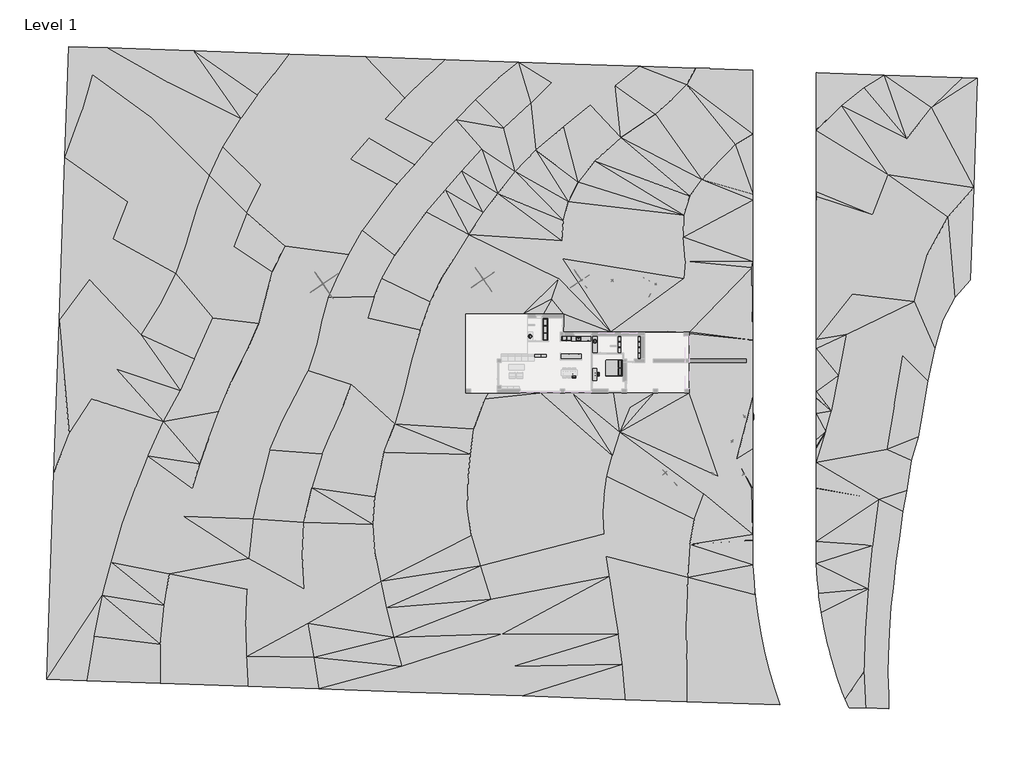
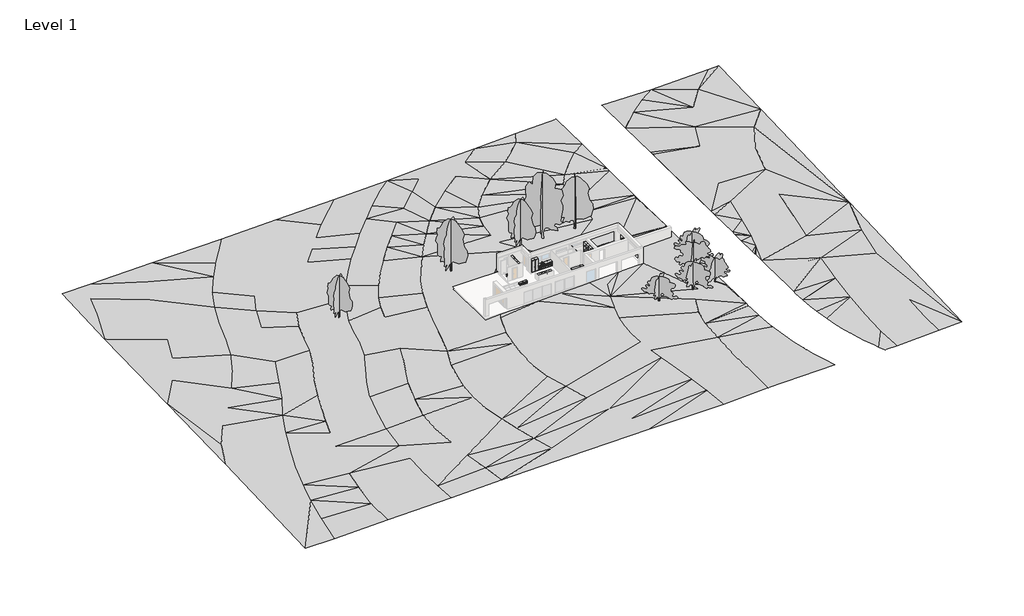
# One storey, part 2 of 2: 35 furniture elements, 10 geographic elements, 3 flow terminals, 1 proxy.
"""IFC4 building model written with IfcOpenShell, lengths in millimetres."""

from ifc_helpers import new_model, si_unit, origin, place, context, project, spatial, triangles, transform, mapped, element, save
from components import sink_kitchen_single_600_x_535mm_f0c6929d, sink_vanity_round_482_x_482mm_621b7b9b, furniture_56f83323, furniture_1500_x_500mm_231fc5f9, furniture_700_x_300_x_2200mm_207dd1db, furniture_750_x_300_x_450mm_957a72fb, base_cabinet_4_drawers_600_mm_7743cde6, base_cabinet_4_drawers_600_mm_75a3c887, bed_box_2000_x_2100mm_5f007bae, counter_top_counter_top_fbe04672, counter_top_w_sink_counter_top_w_sink_1a22a961, front_plain_front_plain_37046411, front_plain_front_plain_e6c80844, front_plain_front_plain_2_fe2e9d0c, plinth_164mm_a440ec44, plinth_164mm_10810e33, tall_cabinet_double_door_900_mm_12ca9f50, tall_cabinet_single_door_600_mm_6a825e10, vanity_counter_top_w_round_sink_hole_600mm_depth_ba51d22c, rpc_tree_deciduous_hawthorn_5_meters_61e68b76, rpc_tree_deciduous_hawthorn_5_5_meters_b1aece7a, rpc_tree_deciduous_hawthorn_6_meters_b5c31be1, rpc_tree_deciduous_red_ash_10_meters_1bd7eb3f, rpc_tree_deciduous_red_ash_12_5_meters_f1622f8d, rpc_tree_deciduous_red_ash_8_meters_67bd5bca, rpc_tree_deciduous_red_ash_9_meters_4b385689

model = new_model("IFC4")

# Units and contexts
model_context = context("Model", 3, world=origin())
ifc_project = project(units=[si_unit("LENGTHUNIT", "METRE", prefix="MILLI")], contexts=[model_context])

# Site, building, storey
site = spatial("IfcSite", under=ifc_project)
building = spatial("IfcBuilding", under=site)
storey = spatial("IfcBuildingStorey", under=building, Name="Level 1", Elevation=0.0)

# Proxy
placement = place(None, origin())
element("IfcBuildingElementProxy", 1, Name="Building Element Proxy", at=placement, inside=storey, context=model_context, shape_type="Tessellation", body=[
    triangles([(62675.4813354, 39834.7592285, 500.0000038), (52813.8925781, 40179.1335571, 0.0), (44199.9997559, 40479.9384521, -99.9114706), (44199.9997559, 40477.7757935, -99.8740728), (44199.9997559, 40470.1669556, -99.7612435), (44199.9997559, 33283.15448, 0.0), (44199.9997559, 33281.3429626, 0.0637354), (44199.9997559, 33162.8501953, 1.412361), (44199.9997559, 25459.997113, 92.5713027), (44199.9997559, 24843.6114807, 100.0000008), (44199.9997559, 24154.9302612, 107.5494491), (44199.9997559, 15721.3415497, 200.0000015), (44199.9997559, 15598.8536774, 201.3711024), (44199.9997559, 6787.8083542, 300.0000023), (44199.9997559, 5639.6784348, 351.4946789), (44199.9997559, 167.286119, 427.0918814), (44199.9997559, -580.2686145, 401.8743436), (44199.9997559, -678.7061016, 402.7253454), (44199.9997559, -815.0331728, 404.2993046), (44199.9997559, -2579.7006775, 446.6362189), (44199.9997559, -5884.6937119, 500.0000038), (44199.9997559, -6738.3166077, 500.0000038), (44199.9997559, -6960.7408218, 504.2089039), (44199.9997559, -8790.5395981, 538.8338616), (44199.9997559, -11980.0361938, 603.3105947), (44199.9997559, -12033.5247894, 603.7311722), (44199.9997559, -18725.3419098, 700.0708586), (44199.9997559, -18726.726709, 700.0782709), (44199.9997559, -18728.290567, 700.0847385), (44199.9997559, -18763.760495, 700.5671946), (44199.9997559, -19440.043634, 710.8359718), (44241.6948853, -21521.9537659, 742.51071), (44366.7058594, -23600.5245667, 774.2601528), (44518.5849609, -25112.4601868, 797.4461649), (44535.3234741, -25279.0965271, 800.2659782), (44536.1420288, -25287.203009, 800.3105976), (44545.3414673, -25378.7997437, 801.2867008), (44574.8373413, -25672.4213562, 805.0710629), (44865.7544678, -27734.3280579, 831.7553352), (45238.9875, -29782.9309204, 858.3768934), (45693.9457764, -31814.9487488, 884.8932255), (45842.1925415, -32371.5403564, 892.187039), (45995.034375, -32945.3681213, 900.9259678), (46009.898584, -33001.1809937, 901.3053051), (46229.8898071, -33827.1236023, 912.3891489), (46845.9684814, -35816.227771, 940.7171436), (47541.1865112, -37779.070752, 970.3251474), (47895.8578857, -38665.8887146, 984.470941), (48311.874353, -39706.1019653, 980.0273169), (48314.4369873, -39712.5062256, 980.0480278), (50489.2112183, -39788.4504272, 1000.0000076), (57791.5515381, -40043.4534668, 1500.0000114), (61788.2378174, -40183.0216919, 1800.0000137), (63078.8567139, -3224.5165512, 1500.0000114), (64097.259668, 25938.7399841, 1000.0000076), (64580.1976318, 39768.2470093, 600.0000046), (29032.1976746, 41009.6084473, -500.0000038), (21941.3956055, 41257.2258911, -1000.0000076), (13657.7942505, 41546.4966064, -1500.0000114), (6632.065535, 41791.8397705, -2000.0000153), (-2690.8654037, 42117.4012939, -2500.0000191), (-12716.4098511, 42467.5008545, -3000.0000229), (-22333.341449, 42803.3315186, -3500.0000267), (-34451.2413208, 43226.5010376, -4000.0000305), (-45250.163562, 43603.608252, -4500.0000343), (-50149.8691406, 43774.709436, -4649.9998901), (-50640.5368652, 29723.8461548, -4500.0000343), (-51357.5442627, 9191.3639694, -4000.0000305), (-52030.1078613, -10068.240097, -3500.0000267), (-52941.8289551, -36176.5592651, -3170.0001114), (-47875.0963623, -36353.4926514, -3000.0000229), (-38571.968866, -36678.3658447, -2500.0000191), (-27447.2316284, -37066.8491089, -2000.0000153), (-18591.4814758, -37376.1, -1500.0000114), (-7024.2532242, -37780.0358093, -1000.0000076), (7111.8414825, -38273.677771, -500.0000038), (20142.6147034, -38728.7244141, 0.0), (27859.4460022, -38998.2009888, 500.0000038), (39617.2887817, -39408.7945313, 979.9999929), (39620.4560303, -39408.9061523, 979.9999929), (39615.242395, -39393.1954834, 979.7900494), (39592.0252075, -39323.2369629, 978.824556), (38908.0390503, -37262.2581116, 947.4351929), (38277.0333801, -35090.2860352, 918.016785), (37917.315802, -33651.7901184, 900.9052568), (37900.7447205, -33585.5243958, 900.0000069), (37897.1263367, -33571.053186, 899.8178959), (37891.2336731, -33547.4871826, 899.5252539), (37728.3389648, -32896.0757813, 889.617065), (37262.7301758, -30682.7434387, 859.1798967), (36880.8720886, -28453.4330017, 831.7234331), (36583.3088562, -26211.3186951, 807.286698), (36531.7631653, -25666.0217468, 802.1085983), (36515.5618286, -25494.6182556, 800.0000061), (36509.2459351, -25427.7897766, 799.0163452), (36491.581897, -25240.9337402, 796.3089523), (36370.4613831, -23959.5793945, 775.587252), (36242.6296509, -21701.4195557, 741.8023956), (36199.9996948, -19440.043634, 710.6949921), (36199.9996948, -18606.7293823, 699.7334518), (36199.9996948, -18601.1797211, 699.7258215), (36199.9996948, -18596.641626, 699.7049652), (36199.9996948, -18590.1536499, 699.6456665), (36199.9996948, -17865.8920441, 688.9390526), (36199.9996948, -11959.4700073, 600.0000046), (36199.9996948, -7036.0792465, 500.0000038), (36199.9996948, -556.9180049, 400.0000031), (36199.9996948, 6699.2172501, 300.0000023), (36199.9996948, 15865.8920288, 200.0000015), (36199.9996948, 16593.2615845, 192.1385083), (36199.9996948, 24352.2461243, 108.5469173), (36199.9996948, 25139.7096863, 99.9103623), (36199.9996948, 25142.1909302, 99.9101262), (36199.9996948, 25144.3814941, 99.9011514), (36199.9996948, 25146.8185547, 99.8778698), (36199.9996948, 25152.6530823, 99.8128483), (36199.9996948, 25166.5359558, 99.6477875), (36199.9996948, 32703.2852234, 0.0), (36199.9996948, 32724.904834, -0.9608008), (36199.9996948, 40755.7123169, -100.6891393), (36199.9996948, 40759.3027954, -100.7970179), (12360.0002106, 9960.0001923, -423.8153735), (12360.0002106, 7679.999826, -386.8554565), (15285.8030182, 7679.999826, -301.7458623), (18274.7275543, 7679.999826, -214.9600804), (25461.2551758, 7679.999826, 0.0), (26497.6430786, 7679.999826, 27.7077973), (28199.9996338, 7679.999826, 73.9349766), (28199.9996338, 7507.9138184, 75.4836602), (28199.9996338, 5272.7839691, 104.8813253), (28199.9996338, 4319.9999748, 118.0120554), (35399.9996887, 4319.9999748, 311.3113395), (35399.9996887, 3839.999913, 317.9264517), (28199.9996338, 3839.999913, 124.6271494), (28199.9996338, 2736.0071251, 139.841764), (28199.9996338, 481.2594326, 173.2234928), (28199.9996338, 0.0, 182.6416316), (23694.83974, 0.0, 66.3748957), (21515.1169739, 0.0, 0.0), (18634.7334869, 0.0, -87.7288294), (17198.1328033, 0.0, -125.1444416), (13397.1217896, 0.0, -237.486249), (9421.774324, 0.0, -329.9934114), (2810.9458649, 0.0, -500.0000038), (885.1346352, 0.0, -579.7759847), (0.0, 0.0, -622.2285896), (0.0, 461.6037283, -627.3847429), (0.0, 3115.9016693, -690.3053209), (0.0, 4821.8949211, -712.2826132), (0.0, 6894.0576828, -743.3206169), (0.0, 9063.5816528, -799.5297586), (0.0, 9960.0001923, -814.352037), (1774.630632, 9960.0001923, -751.0566999), (5988.3961029, 9960.0001923, -622.0950222), (7160.4402603, 9960.0001923, -584.8428266), (9741.0100708, 9960.0001923, -500.0000038), (17785.0597687, -10539.9996735, 0.0), (17437.3914551, -12871.6573517, 0.0), (1020.5792747, -4531.0638359, -500.0000038), (518.5041069, -7734.6319565, -500.0000038), (269.882055, -10539.9996735, -500.0000038), (159.9114783, -14508.993457, -500.0000038), (10815.8165588, 11888.7138611, -500.0000038), (11691.8677368, 14459.9999359, -500.0000038), (12137.434726, 16959.4729523, -500.0000038), (655.4314322, -17979.9257812, -500.0000038), (-10346.5091583, -7499.8718674, -1000.0000076), (-11019.1739136, -10539.9996735, -1000.0000076), (-11497.3703064, -13133.3913757, -1000.0000076), (-11757.5323334, -16613.3196625, -1000.0000076), (-11482.3456421, -20106.2308777, -1000.0000076), (-3118.8869522, 14459.9999359, -1000.0000076), (-1502.4372173, 17074.1857178, -1000.0000076), (27492.182373, 14459.9999359, 0.0), (27666.9228699, 16682.0247711, 0.0), (34184.4878357, -8324.7819809, 500.0000038), (31872.168512, -10539.9996735, 500.0000038), (30046.977594, -12763.5383698, 500.0000038), (-8954.5493546, 17345.9063416, -1500.0000114), (-11578.9874176, 12182.533136, -1500.0000114), (-13183.5883118, 6460.6073959, -1500.0000114), (12087.2947632, 19234.2759613, -500.0000038), (-10616.9240479, 14459.9999359, -1500.0000114), (-16332.8019012, 14459.9999359, -2000.0000153), (-18196.6997589, 9135.8714264, -2000.0000153), (-19897.1575928, 2861.2186684, -2000.0000153), (-23189.1380493, -3524.1581451, -2000.0000153), (-24769.0416138, -7218.9215744, -2000.0000153), (-25864.4026611, -11505.3895844, -2000.0000153), (-26865.7415405, -15916.5017303, -2000.0000153), (-20467.3902283, -16330.3799561, -1500.0000114), (-19467.1082611, -11972.8180298, -1500.0000114), (-18138.8870087, -7688.4045456, -1500.0000114), (-15501.0294159, -1549.4827469, -1500.0000114), (-13779.6728577, 3681.9333984, -1500.0000114), (-12421.0069519, 9460.4144073, -1500.0000114), (-22866.0182373, 18570.6315857, -2500.0000191), (-24428.3949646, 15268.9656738, -2500.0000191), (-26157.3452454, 8807.4653091, -2500.0000191), (-27607.0474548, 5450.8405426, -2500.0000191), (-31175.1319885, -2313.5807293, -2500.0000191), (-32441.6337524, -5760.616983, -2500.0000191), (-33596.7330139, -8984.5201996, -2500.0000191), (-34532.6851868, -12038.5221588, -2500.0000191), (-35635.348114, -15592.0994385, -2500.0000191), (-20960.820575, 21543.5291931, -2500.0000191), (-19070.9475586, 24142.4705566, -2500.0000191), (-16802.0151215, 26729.9451782, -2500.0000191), (-14788.6938263, 17511.7241272, -2000.0000153), (-13095.9297089, 20523.1635681, -2000.0000153), (-10897.5615692, 23500.2097595, -2000.0000153), (-8647.2402054, 26403.1488464, -2000.0000153), (-6975.3120255, 20279.1435791, -1500.0000114), (-4994.2248093, 22853.0167053, -1500.0000114), (-2614.1087517, 25655.3270508, -1500.0000114), (361.8462636, 20042.7626587, -1000.0000076), (2201.2583702, 22782.5907715, -1000.0000076), (4025.0816391, 25202.8011841, -1000.0000076), (6258.6296082, 27941.9711975, -1000.0000076), (12318.7748199, 21808.2130371, -500.0000038), (12903.4391327, 24186.8608704, -500.0000038), (16274.1833862, 29288.0122925, -500.0000038), (27455.9171448, 19670.448175, 0.0), (28270.9464661, 24906.2797485, 0.0), (32015.9667114, 29437.5752563, 0.0), (-25870.6953003, 26309.0429626, -3000.0000229), (-27656.3095642, 22737.8144348, -3000.0000229), (-29306.3460571, 18472.584082, -3000.0000229), (-30599.2462097, 13692.0212311, -3000.0000229), (-31952.9286987, 9466.1942871, -3000.0000229), (-34271.8894775, 4278.4179199, -3000.0000229), (-32380.5584106, 27476.360083, -3500.0000267), (-33900.1191467, 23473.5625488, -3500.0000267), (-35196.7097717, 19206.453241, -3500.0000267), (-38595.8976379, 11205.8508911, -3500.0000267), (-41440.5449341, 29594.444751, -4000.0000305), (-30705.2002075, 31085.8002319, -3500.0000267), (-23672.9759583, 29571.7507874, -3000.0000229), (-36036.2027161, 329.8430935, -3000.0000229), (-36500.1836975, -19119.0876434, -2500.0000191), (-29576.7830383, 1556.081472, -2500.0000191), (-25350.2038147, 11954.3168335, -2500.0000191), (-14566.5132019, 29578.5852539, -2500.0000191), (-21555.6098511, -388.1904768, -2000.0000153), (-27410.2687683, -20897.2756165, -2000.0000153), (-20671.5405579, -20486.1983826, -1500.0000114), (-14476.0989532, 1084.1536646, -1500.0000114), (-16860.3557465, -4734.5223473, -1500.0000114), (-521.909931, 28019.824585, -1500.0000114), (-6463.5287292, 28827.9566528, -2000.0000153), (14176.1858643, 26665.7956055, -500.0000038), (1795.4909866, -21816.7241455, -500.0000038), (17261.4998657, -15127.9126556, 0.0), (17663.1962769, -20610.3977783, 0.0), (18068.4250305, -23150.8078308, 0.0), (17389.6315796, -17770.4083374, 0.0), (28246.7107361, -19100.8410828, 500.0000038), (28017.940979, -23279.041864, 500.0000038), (28808.7787537, -15989.1379944, 500.0000038), (-17393.6545898, 12080.7753937, -2000.0000153), (-18805.5974762, 6207.9710724, -2000.0000153), (2368.3175045, -773.4899237, -500.0000038), (44247.1782715, -6739.9636002, 500.0000038), (44216.2592285, 6787.2403656, 300.0000023), (44213.668689, 15720.8636719, 200.0000015), (44280.4925171, 24840.8000244, 100.0000008), (45405.5308228, -4846.0821075, 500.0000038), (46133.030603, -2276.4914234, 500.0000038), (47035.2499512, 2229.5832401, 500.0000038), (36112.1980774, -11959.089798, 600.0000046), (36116.053656, 15873.7834076, 200.0000015), (26720.9154968, 11432.5254272, 0.0), (19446.9873962, -4904.8953781, 0.0), (20699.6690735, -1810.0515804, 0.0), (18499.5859222, -7915.4982422, 0.0), (25510.3545044, 7779.8018738, 0.0), (-4490.6825798, 11500.9665985, -1000.0000076), (-5769.6844528, 7932.4006989, -1000.0000076), (-7859.2063293, 74.3139641, -1000.0000076), (-9011.8882965, -3894.2512527, -1000.0000076), (-6927.6056351, 4074.3969429, -1000.0000076), (-10028.7018127, -27163.437323, -1000.0000076), (-9105.1994614, -30846.8101685, -1000.0000076), (-10781.3861023, -23778.0555908, -1000.0000076), (-8099.0672699, -34512.821283, -1000.0000076), (8826.8693573, 30656.270636, -1000.0000076), (12337.2295074, 33655.4015259, -1000.0000076), (15699.4405609, 36343.2537415, -1000.0000076), (18859.1221161, 38796.1598328, -1000.0000076), (3109.4622368, -26048.5007263, -500.0000038), (4583.7254471, -30410.8367798, -500.0000038), (5956.0300552, -34527.5947998, -500.0000038), (19527.9475708, 32270.4674561, -500.0000038), (23908.9522522, 35235.1353333, -500.0000038), (26075.9478882, 37149.0882751, -500.0000038), (27907.8895569, 38964.2053894, -500.0000038), (-20384.6092346, -24769.1532349, -1500.0000114), (-19959.4654175, -29109.2697144, -1500.0000114), (-19219.3373383, -33364.270459, -1500.0000114), (2020.3673767, 30782.7024536, -1500.0000114), (4766.3506371, 33450.1768433, -1500.0000114), (8173.0889145, 36647.2537903, -1500.0000114), (10804.8172302, 39208.1835205, -1500.0000114), (-4107.6114853, 31581.3537048, -2000.0000153), (-1261.2480148, 34516.5350098, -2000.0000153), (1208.2063396, 37064.6352905, -2000.0000153), (4064.231575, 39763.5310181, -2000.0000153), (-27633.5156067, -24771.0019592, -2000.0000153), (-27781.8925964, -29019.9519104, -2000.0000153), (-27646.7171265, -33283.5358521, -2000.0000153), (-12204.7329437, 32216.9567688, -2500.0000191), (-10167.2712616, 34569.6294434, -2500.0000191), (-7717.243483, 37275.1782532, -2500.0000191), (-4949.7379898, 39936.6785889, -2500.0000191), (-37482.3586304, -22863.6951233, -2500.0000191), (-38055.6282898, -26807.2567383, -2500.0000191), (-38594.4558655, -31719.6661926, -2500.0000191), (-21449.9186279, 32503.4648621, -3000.0000229), (-19081.6317902, 35291.045874, -3000.0000229), (-16786.5602509, 38063.2696838, -3000.0000229), (-14596.5171844, 40422.0303589, -3000.0000229), (-38200.0752869, -3613.1547478, -3000.0000229), (-40141.5823608, -7934.4656891, -3000.0000229), (-41717.769873, -11958.8816711, -3000.0000229), (-43404.387854, -16551.3990234, -3000.0000229), (-44790.4009277, -21373.4744568, -3000.0000229), (-45881.0552856, -25549.7079163, -3000.0000229), (-46933.3957031, -30709.9743347, -3000.0000229), (-28417.2328857, 34688.1780212, -3500.0000267), (-26334.2344482, 37631.0774597, -3500.0000267), (-24204.1086548, 40355.3228027, -3500.0000267), (-36640.9704529, 15097.3121979, -3500.0000267), (-41001.8089233, 7310.767131, -3500.0000267), (-44149.0028687, 3059.9678741, -3500.0000267), (-47258.7990967, -779.7315485, -3500.0000267), (-50065.0836182, -5132.0018646, -3500.0000267), (-47531.4103638, 14353.0041412, -4000.0000305), (-44521.8219727, 19438.3611786, -4000.0000305), (-42694.2544556, 24127.534259, -4000.0000305), (-39700.2093018, 34798.3364136, -4000.0000305), (-37494.0416382, 39199.7282227, -4000.0000305), (-47157.1913452, 40199.225354, -4500.0000343), (-48452.8145874, 35728.7889221, -4500.0000343), (18631.0767334, -26639.6832458, 0.0), (19241.3476227, -30505.6798279, 0.0), (19747.1527954, -34271.9127319, 0.0), (33980.4398254, 31367.4086243, 0.0), (36502.3393799, -25495.4275085, 800.0000061), (37897.8588501, -33585.8987915, 900.0000069), (27795.621991, -28795.5051453, 500.0000038), (27867.5013245, -33694.7781921, 500.0000038), (48005.1395874, 7402.9923157, 500.0000038), (49818.2428711, 17722.8740295, 500.0000038), (48751.1359131, 12488.8132782, 500.0000038), (51292.6970581, 22563.8459839, 500.0000038), (55626.8743652, 32158.5556824, 500.0000038), (58768.8918823, 36043.2394958, 500.0000038), (53245.1918335, 27565.1686157, 500.0000038), (50262.2855347, -35164.0885071, 1000.0000076), (50421.6944092, -30034.5434692, 1000.0000076), (51347.6518433, -19242.60336, 1000.0000076), (50798.9039429, -24737.6109741, 1000.0000076), (52091.7366577, -13433.0486664, 1000.0000076), (54067.1556152, -1581.0279144, 1000.0000076), (55130.4814087, 4657.9639389, 1000.0000076), (53103.7539551, -7149.7856781, 1000.0000076), (56609.4143921, 11566.1905243, 1000.0000076), (58229.7666504, 17469.3209015, 1000.0000076), (60826.1151489, 22217.5275879, 1000.0000076), (57727.3973145, -35608.5683533, 1500.0000114), (57915.4323486, -30457.531604, 1500.0000114), (58615.3198608, -24434.56203, 1500.0000114), (59755.3293457, -17269.5970459, 1500.0000114), (60923.0394653, -10627.3920135, 1500.0000114), (47389.1957886, 36276.5485107, 0.0), (50253.3372437, 38551.6677795, 0.0), (27478.9575989, 22445.5276245, 0.0), (29784.2796753, 26945.6506165, 0.0)], [[70, 71, 328], [328, 72, 317], [72, 328, 71], [316, 317, 309], [328, 317, 327], [70, 328, 327], [326, 240, 325], [316, 326, 327], [69, 327, 326], [70, 327, 69], [315, 245, 240], [316, 308, 315], [315, 240, 326], [316, 315, 326], [327, 317, 316], [325, 240, 205], [310, 317, 72], [69, 326, 325], [297, 308, 309], [308, 316, 309], [298, 309, 310], [245, 315, 308], [299, 298, 310], [299, 73, 74], [171, 246, 297], [299, 310, 73], [317, 310, 309], [297, 309, 298], [205, 245, 190], [205, 240, 245], [190, 245, 246], [205, 190, 204], [192, 191, 170], [297, 246, 245], [191, 246, 170], [246, 191, 190], [245, 308, 297], [190, 191, 189], [298, 284, 297], [310, 72, 73], [325, 205, 324], [69, 324, 336], [324, 69, 325], [336, 324, 323], [69, 336, 68], [323, 204, 203], [204, 323, 324], [203, 204, 189], [336, 323, 335], [324, 205, 204], [322, 323, 203], [68, 335, 334], [334, 335, 322], [333, 334, 239], [68, 334, 333], [239, 231, 333], [201, 239, 322], [241, 231, 239], [239, 334, 322], [335, 323, 322], [235, 333, 231], [202, 322, 203], [336, 335, 68], [201, 202, 188], [189, 202, 203], [188, 202, 189], [202, 201, 322], [187, 188, 193], [192, 188, 189], [244, 187, 248], [188, 187, 201], [204, 190, 189], [201, 187, 241], [231, 200, 230], [200, 241, 244], [199, 200, 186], [200, 231, 241], [186, 261, 199], [194, 186, 244], [195, 261, 186], [186, 200, 244], [241, 187, 244], [199, 261, 185], [193, 188, 192], [201, 241, 239], [191, 192, 189], [199, 230, 200], [283, 298, 299], [170, 246, 171], [297, 284, 171], [171, 284, 166], [284, 298, 282], [282, 298, 283], [166, 170, 171], [285, 283, 299], [282, 252, 284], [248, 193, 167], [192, 170, 169], [192, 169, 168], [194, 244, 248], [170, 162, 169], [169, 162, 168], [168, 167, 193], [168, 193, 192], [168, 161, 167], [194, 248, 167], [282, 283, 290], [248, 187, 193], [283, 291, 290], [75, 285, 74], [291, 285, 75], [290, 252, 282], [75, 292, 291], [292, 75, 76], [345, 291, 292], [255, 290, 291], [254, 252, 290], [160, 161, 157], [162, 158, 161], [160, 167, 161], [161, 168, 162], [253, 166, 256], [166, 284, 252], [252, 256, 166], [166, 253, 162], [170, 166, 162], [143, 160, 157], [292, 76, 346], [285, 291, 283], [280, 167, 160], [247, 195, 186], [247, 194, 280], [195, 247, 279], [195, 181, 261], [279, 281, 195], [147, 281, 279], [149, 281, 148], [279, 247, 280], [194, 167, 280], [195, 281, 181], [196, 185, 181], [185, 261, 181], [181, 281, 278], [278, 196, 181], [150, 151, 278], [149, 150, 278], [281, 149, 278], [277, 278, 151], [279, 280, 146], [186, 194, 247], [146, 159, 145], [159, 146, 280], [145, 159, 262], [262, 159, 143], [143, 275, 142], [145, 262, 144], [142, 273, 141], [143, 159, 160], [148, 281, 147], [144, 262, 143], [124, 125, 122], [147, 279, 146], [280, 160, 159], [122, 123, 124], [158, 162, 253], [74, 285, 299], [199, 185, 242], [67, 68, 337], [68, 333, 337], [332, 235, 230], [337, 333, 235], [230, 199, 229], [337, 235, 338], [230, 235, 231], [229, 332, 230], [339, 338, 234], [332, 338, 235], [234, 338, 332], [337, 338, 67], [234, 228, 233], [234, 332, 229], [233, 228, 227], [234, 233, 339], [229, 228, 234], [236, 339, 233], [229, 198, 228], [339, 67, 338], [242, 260, 198], [242, 185, 260], [198, 260, 184], [197, 228, 198], [209, 184, 183], [260, 180, 184], [210, 209, 179], [198, 184, 197], [199, 242, 229], [197, 184, 209], [226, 227, 206], [227, 228, 197], [206, 227, 197], [233, 227, 232], [209, 207, 206], [206, 197, 209], [207, 210, 208], [206, 207, 226], [210, 207, 209], [226, 207, 238], [211, 208, 210], [198, 229, 242], [260, 185, 196], [226, 232, 227], [343, 67, 236], [67, 339, 236], [340, 236, 232], [343, 236, 340], [237, 238, 329], [237, 232, 226], [340, 237, 341], [232, 237, 340], [233, 232, 236], [341, 237, 329], [66, 343, 342], [343, 66, 67], [343, 340, 342], [66, 342, 65], [65, 341, 64], [341, 65, 342], [64, 341, 329], [340, 341, 342], [329, 330, 64], [318, 243, 319], [208, 318, 238], [318, 319, 330], [318, 330, 329], [208, 211, 243], [311, 243, 212], [243, 311, 319], [208, 243, 318], [226, 238, 237], [319, 311, 320], [331, 63, 64], [330, 319, 331], [63, 331, 320], [331, 64, 330], [321, 62, 63], [312, 321, 320], [313, 62, 321], [321, 63, 320], [319, 320, 331], [312, 320, 311], [318, 329, 238], [207, 208, 238], [260, 196, 180], [180, 277, 183], [196, 278, 180], [179, 183, 277], [179, 209, 183], [173, 172, 152], [152, 172, 277], [277, 151, 152], [173, 152, 153], [277, 180, 278], [179, 277, 172], [210, 213, 211], [210, 179, 213], [179, 172, 213], [211, 213, 214], [214, 173, 216], [173, 214, 213], [154, 216, 173], [215, 214, 216], [172, 173, 213], [212, 211, 214], [173, 153, 154], [183, 184, 180], [164, 154, 155], [163, 155, 156], [163, 122, 164], [122, 163, 156], [164, 122, 125], [163, 164, 155], [165, 216, 164], [217, 182, 218], [217, 216, 182], [218, 182, 220], [215, 216, 217], [377, 251, 221], [220, 182, 223], [218, 220, 219], [377, 221, 220], [165, 182, 216], [219, 220, 221], [164, 125, 165], [164, 216, 154], [218, 249, 217], [311, 250, 312], [250, 212, 215], [304, 250, 249], [312, 250, 304], [218, 300, 249], [249, 215, 217], [249, 300, 304], [215, 249, 250], [212, 214, 215], [304, 300, 305], [313, 305, 314], [313, 312, 304], [314, 61, 62], [312, 313, 321], [314, 306, 61], [306, 314, 305], [301, 306, 305], [61, 306, 307], [304, 305, 313], [314, 62, 313], [305, 300, 301], [311, 212, 250], [301, 219, 286], [219, 301, 300], [219, 221, 286], [302, 301, 286], [287, 251, 222], [251, 287, 286], [377, 222, 251], [287, 222, 288], [219, 300, 218], [302, 286, 287], [307, 302, 60], [302, 307, 301], [60, 302, 303], [307, 60, 61], [303, 288, 59], [303, 302, 287], [59, 288, 289], [303, 59, 60], [287, 288, 303], [222, 293, 288], [301, 307, 306], [251, 286, 221], [182, 165, 223], [212, 243, 211], [345, 346, 351], [345, 292, 346], [77, 78, 351], [90, 350, 351], [77, 351, 346], [344, 291, 345], [345, 351, 350], [350, 258, 344], [350, 344, 345], [93, 348, 92], [348, 258, 350], [348, 94, 95], [94, 348, 93], [92, 348, 350], [95, 96, 348], [351, 78, 84], [344, 255, 291], [349, 85, 86], [349, 351, 85], [349, 86, 87], [83, 84, 78], [82, 83, 78], [351, 84, 85], [91, 92, 350], [90, 91, 350], [349, 88, 89], [88, 349, 87], [90, 351, 89], [349, 89, 351], [78, 79, 82], [257, 256, 254], [254, 256, 252], [254, 290, 255], [258, 254, 255], [178, 259, 104], [259, 257, 104], [257, 259, 256], [258, 257, 254], [344, 258, 255], [259, 158, 253], [157, 178, 275], [157, 158, 259], [273, 142, 275], [143, 157, 275], [178, 270, 177], [176, 177, 270], [273, 178, 177], [275, 178, 273], [259, 178, 157], [176, 137, 177], [257, 258, 98], [259, 253, 256], [102, 257, 101], [101, 257, 100], [97, 98, 258], [96, 97, 258], [99, 257, 98], [105, 106, 176], [105, 270, 104], [105, 176, 270], [104, 270, 178], [104, 257, 103], [102, 103, 257], [100, 257, 99], [348, 96, 258], [107, 176, 106], [346, 76, 77], [81, 79, 80], [79, 81, 82], [360, 43, 44], [38, 39, 362], [40, 360, 39], [42, 360, 41], [40, 41, 360], [42, 43, 360], [44, 45, 359], [49, 50, 51], [48, 49, 51], [370, 51, 52], [51, 359, 48], [370, 52, 53], [46, 47, 359], [47, 48, 359], [359, 360, 44], [359, 371, 360], [371, 359, 370], [371, 370, 53], [362, 39, 360], [51, 370, 359], [359, 45, 46], [53, 372, 371], [362, 360, 371], [361, 28, 29], [361, 27, 28], [361, 30, 31], [29, 30, 361], [26, 27, 363], [263, 22, 23], [23, 267, 263], [363, 24, 25], [26, 363, 25], [267, 23, 24], [22, 263, 21], [32, 361, 31], [35, 36, 362], [34, 35, 362], [38, 362, 37], [362, 371, 372], [362, 372, 361], [37, 362, 36], [34, 362, 33], [361, 363, 27], [362, 361, 32], [363, 361, 373], [363, 366, 24], [363, 374, 366], [374, 363, 373], [373, 372, 53], [366, 374, 54], [372, 373, 361], [33, 362, 32], [53, 374, 373], [366, 267, 24], [53, 54, 374], [140, 273, 274], [140, 141, 273], [274, 138, 139], [138, 274, 273], [274, 139, 140], [273, 137, 138], [125, 126, 276], [276, 126, 127], [125, 276, 272], [174, 272, 271], [128, 272, 127], [272, 174, 125], [127, 272, 276], [174, 175, 165], [133, 135, 136], [107, 136, 137], [135, 133, 134], [133, 136, 107], [133, 107, 108], [273, 177, 137], [130, 132, 129], [132, 130, 131], [129, 108, 128], [108, 129, 132], [132, 133, 108], [271, 272, 128], [107, 137, 176], [271, 128, 108], [377, 224, 222], [223, 377, 220], [111, 224, 377], [222, 224, 293], [111, 378, 224], [110, 223, 175], [224, 378, 293], [223, 111, 377], [175, 223, 165], [293, 378, 294], [289, 294, 58], [294, 289, 293], [58, 294, 295], [289, 58, 59], [296, 57, 58], [347, 296, 295], [296, 120, 57], [296, 58, 295], [295, 294, 225], [378, 225, 294], [289, 288, 293], [271, 109, 110], [109, 271, 108], [110, 111, 223], [112, 113, 378], [112, 378, 111], [113, 114, 378], [347, 225, 117], [378, 114, 115], [378, 115, 116], [225, 347, 295], [117, 225, 378], [378, 116, 117], [347, 117, 118], [110, 175, 271], [175, 174, 271], [119, 296, 347], [165, 125, 174], [16, 269, 15], [16, 17, 268], [18, 19, 268], [17, 18, 268], [20, 268, 19], [14, 264, 13], [264, 14, 15], [13, 265, 12], [354, 265, 13], [354, 13, 264], [11, 12, 265], [264, 15, 352], [20, 21, 267], [268, 269, 16], [267, 366, 268], [269, 268, 364], [352, 15, 269], [364, 54, 365], [267, 21, 263], [365, 54, 367], [364, 365, 269], [268, 366, 364], [269, 365, 352], [354, 367, 353], [367, 354, 352], [354, 353, 265], [354, 264, 352], [54, 368, 367], [368, 54, 369], [353, 368, 355], [367, 368, 353], [352, 365, 367], [11, 265, 353], [54, 55, 369], [20, 267, 268], [366, 54, 364], [369, 355, 368], [120, 296, 119], [10, 266, 9], [8, 9, 358], [266, 10, 11], [121, 57, 120], [5, 6, 375], [4, 5, 376], [7, 375, 6], [8, 375, 7], [119, 347, 118], [355, 358, 9], [355, 266, 11], [355, 369, 358], [8, 358, 375], [356, 55, 357], [55, 356, 358], [357, 55, 56], [375, 358, 356], [369, 55, 358], [2, 356, 357], [4, 376, 3], [5, 375, 376], [375, 356, 376], [3, 376, 2], [356, 2, 376], [1, 2, 357], [357, 56, 1], [266, 355, 9], [11, 353, 355], [161, 158, 157]], closed=False),
])

# Flow terminals
sink_kitchen_single_600_x_535mm_shape = sink_kitchen_single_600_x_535mm_f0c6929d(model_context)
element("IfcFlowTerminal", 2, ObjectType="Sink Kitchen-Single : 600 x 535mm", at=placement, inside=storey, context=model_context, shape_type="MappedRepresentation", body=[
    mapped(sink_kitchen_single_600_x_535mm_shape, transform((14204.3107594, 6884.4545989, 0.0), x_axis=(1.0, 0.0, 0.0), y_axis=(0.0, 1.0, 0.0), z_axis=(0.0, 0.0, 1.0))),
])
sink_vanity_round_482_x_482mm_shape = sink_vanity_round_482_x_482mm_621b7b9b(model_context)
element("IfcFlowTerminal", 3, ObjectType="Sink Vanity - Round : 482 x 482mm", at=placement, inside=storey, context=model_context, shape_type="MappedRepresentation", body=[
    mapped(sink_vanity_round_482_x_482mm_shape, transform((16358.3901141, 6444.5531607, 0.0), x_axis=(0.0, 1.0, 0.0), y_axis=(-1.0, 0.0, 0.0), z_axis=(0.0, 0.0, 1.0))),
])
element("IfcFlowTerminal", 4, ObjectType="Sink Vanity - Round : 482 x 482mm", at=placement, inside=storey, context=model_context, shape_type="MappedRepresentation", body=[
    mapped(sink_vanity_round_482_x_482mm_shape, transform((8199.0351087, 7049.1198202, 0.0), x_axis=(0.0, 1.0000000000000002, 0.0), y_axis=(-1.0000000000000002, 0.0, 0.0), z_axis=(0.0, 0.0, 1.0))),
])

# Furniture
furniture_shape = furniture_56f83323(model_context)
element("IfcFurniture", 5, ObjectType="Chair - Allround : Chair - allround", at=placement, inside=storey, context=model_context, shape_type="MappedRepresentation", body=[
    mapped(furniture_shape, transform((13640.0, 2190.0, 0.0), x_axis=(-1.0, 0.0, 0.0), y_axis=(0.0, -1.0, 0.0), z_axis=(0.0, 0.0, 1.0))),
])
element("IfcFurniture", 6, ObjectType="Chair - Allround : Chair - allround", at=placement, inside=storey, context=model_context, shape_type="MappedRepresentation", body=[
    mapped(furniture_shape, transform((16525.0, 2370.0, 0.0), x_axis=(0.0, -1.0000000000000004, 0.0), y_axis=(1.0000000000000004, 0.0, 0.0), z_axis=(0.0, 0.0, 1.0))),
])
furniture_1500_x_500mm_shape = furniture_1500_x_500mm_231fc5f9(model_context)
element("IfcFurniture", 7, ObjectType="Table - Allround : 1500 x 500mm", at=placement, inside=storey, context=model_context, shape_type="MappedRepresentation", body=[
    mapped(furniture_1500_x_500mm_shape, transform((16275.0, 2320.0, 0.0), x_axis=(0.0, 1.0000000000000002, 0.0), y_axis=(-1.0000000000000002, 0.0, 0.0), z_axis=(0.0, 0.0, 1.0))),
])
furniture_700_x_300_x_2200mm_shape = furniture_700_x_300_x_2200mm_207dd1db(model_context)
element("IfcFurniture", 8, ObjectType="Shelving (Floor) - Allround : 700 x 300 x 2200mm", at=placement, inside=storey, context=model_context, shape_type="MappedRepresentation", body=[
    mapped(furniture_700_x_300_x_2200mm_shape, transform((19085.2, 6810.0, 0.0), x_axis=(0.0, 1.0000000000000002, 0.0), y_axis=(-1.0000000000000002, 0.0, 0.0), z_axis=(0.0, 0.0, 1.0))),
])
element("IfcFurniture", 9, ObjectType="Shelving (Floor) - Allround : 700 x 300 x 2200mm", at=placement, inside=storey, context=model_context, shape_type="MappedRepresentation", body=[
    mapped(furniture_700_x_300_x_2200mm_shape, transform((19085.2, 6110.0, 0.0), x_axis=(0.0, 1.0000000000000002, 0.0), y_axis=(-1.0000000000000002, 0.0, 0.0), z_axis=(0.0, 0.0, 1.0))),
])
element("IfcFurniture", 10, ObjectType="Shelving (Floor) - Allround : 700 x 300 x 2200mm", at=placement, inside=storey, context=model_context, shape_type="MappedRepresentation", body=[
    mapped(furniture_700_x_300_x_2200mm_shape, transform((19085.2, 5410.0, 0.0), x_axis=(0.0, 1.0000000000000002, 0.0), y_axis=(-1.0000000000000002, 0.0, 0.0), z_axis=(0.0, 0.0, 1.0))),
])
element("IfcFurniture", 11, ObjectType="Shelving (Floor) - Allround : 700 x 300 x 2200mm", at=placement, inside=storey, context=model_context, shape_type="MappedRepresentation", body=[
    mapped(furniture_700_x_300_x_2200mm_shape, transform((21585.2, 6810.0, 0.0), x_axis=(0.0, 1.0000000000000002, 0.0), y_axis=(-1.0000000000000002, 0.0, 0.0), z_axis=(0.0, 0.0, 1.0))),
])
element("IfcFurniture", 12, ObjectType="Shelving (Floor) - Allround : 700 x 300 x 2200mm", at=placement, inside=storey, context=model_context, shape_type="MappedRepresentation", body=[
    mapped(furniture_700_x_300_x_2200mm_shape, transform((21585.2, 6110.0, 0.0), x_axis=(0.0, 1.0000000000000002, 0.0), y_axis=(-1.0000000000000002, 0.0, 0.0), z_axis=(0.0, 0.0, 1.0))),
])
element("IfcFurniture", 13, ObjectType="Shelving (Floor) - Allround : 700 x 300 x 2200mm", at=placement, inside=storey, context=model_context, shape_type="MappedRepresentation", body=[
    mapped(furniture_700_x_300_x_2200mm_shape, transform((21585.2, 5410.0, 0.0), x_axis=(0.0, 1.0000000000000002, 0.0), y_axis=(-1.0000000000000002, 0.0, 0.0), z_axis=(0.0, 0.0, 1.0))),
])
element("IfcFurniture", 14, ObjectType="Shelving (Floor) - Allround : 700 x 300 x 2200mm", at=placement, inside=storey, context=model_context, shape_type="MappedRepresentation", body=[
    mapped(furniture_700_x_300_x_2200mm_shape, transform((21585.2, 4710.0, 0.0), x_axis=(0.0, 1.0000000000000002, 0.0), y_axis=(-1.0000000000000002, 0.0, 0.0), z_axis=(0.0, 0.0, 1.0))),
])
furniture_750_x_300_x_450mm_shape = furniture_750_x_300_x_450mm_957a72fb(model_context)
element("IfcFurniture", 15, ObjectType="Shelving (Floor) - Allround : 750 x 300 x 450mm", at=placement, inside=storey, context=model_context, shape_type="MappedRepresentation", body=[
    mapped(furniture_750_x_300_x_450mm_shape, transform((9045.0, 5034.8, 0.0), x_axis=(1.0, 0.0, 0.0), y_axis=(0.0, 1.0, 0.0), z_axis=(0.0, 0.0, 1.0))),
])
element("IfcFurniture", 16, ObjectType="Shelving (Floor) - Allround : 750 x 300 x 450mm", at=placement, inside=storey, context=model_context, shape_type="MappedRepresentation", body=[
    mapped(furniture_750_x_300_x_450mm_shape, transform((9795.0, 5034.8, 0.0), x_axis=(1.0, 0.0, 0.0), y_axis=(0.0, 1.0, 0.0), z_axis=(0.0, 0.0, 1.0))),
])
base_cabinet_4_drawers_600_mm_shape = base_cabinet_4_drawers_600_mm_7743cde6(model_context)
element("IfcFurniture", 17, ObjectType="Base Cabinet - 4 Drawers : 600 mm", at=placement, inside=storey, context=model_context, shape_type="MappedRepresentation", body=[
    mapped(base_cabinet_4_drawers_600_mm_shape, transform((13575.2996736, 7200.0, 0.0), x_axis=(1.0, 0.0, 0.0), y_axis=(0.0, 1.0, 0.0), z_axis=(0.0, 0.0, 1.0))),
])
element("IfcFurniture", 18, ObjectType="Base Cabinet - 4 Drawers : 600 mm", at=placement, inside=storey, context=model_context, shape_type="MappedRepresentation", body=[
    mapped(base_cabinet_4_drawers_600_mm_shape, transform((14775.2996736, 7200.0, 0.0), x_axis=(1.0, 0.0, 0.0), y_axis=(0.0, 1.0, 0.0), z_axis=(0.0, 0.0, 1.0))),
])
element("IfcFurniture", 19, ObjectType="Base Cabinet - 4 Drawers : 600 mm", at=placement, inside=storey, context=model_context, shape_type="MappedRepresentation", body=[
    mapped(base_cabinet_4_drawers_600_mm_shape, transform((15375.2996736, 7200.0, 0.0), x_axis=(1.0, 0.0, 0.0), y_axis=(0.0, 1.0, 0.0), z_axis=(0.0, 0.0, 1.0))),
])
element("IfcFurniture", 20, ObjectType="Base Cabinet - 4 Drawers : 600 mm", at=placement, inside=storey, context=model_context, shape_type="MappedRepresentation", body=[
    mapped(base_cabinet_4_drawers_600_mm_shape, transform((12464.7003264, 4320.0, 0.0), x_axis=(-1.0, 0.0, 0.0), y_axis=(0.0, -1.0, 0.0), z_axis=(0.0, 0.0, 1.0))),
])
element("IfcFurniture", 21, ObjectType="Base Cabinet - 4 Drawers : 600 mm", at=placement, inside=storey, context=model_context, shape_type="MappedRepresentation", body=[
    mapped(base_cabinet_4_drawers_600_mm_shape, transform((13064.7003264, 4320.0, 0.0), x_axis=(-1.0, 0.0, 0.0), y_axis=(0.0, -1.0, 0.0), z_axis=(0.0, 0.0, 1.0))),
])
element("IfcFurniture", 22, ObjectType="Base Cabinet - 4 Drawers : 600 mm", at=placement, inside=storey, context=model_context, shape_type="MappedRepresentation", body=[
    mapped(base_cabinet_4_drawers_600_mm_shape, transform((13664.7003264, 4320.0, 0.0), x_axis=(-1.0, 0.0, 0.0), y_axis=(0.0, -1.0, 0.0), z_axis=(0.0, 0.0, 1.0))),
])
element("IfcFurniture", 23, ObjectType="Base Cabinet - 4 Drawers : 600 mm", at=placement, inside=storey, context=model_context, shape_type="MappedRepresentation", body=[
    mapped(base_cabinet_4_drawers_600_mm_shape, transform((14264.7003264, 4320.0, 0.0), x_axis=(-1.0, 0.0, 0.0), y_axis=(0.0, -1.0, 0.0), z_axis=(0.0, 0.0, 1.0))),
])
base_cabinet_4_drawers_600_mm_2_shape = base_cabinet_4_drawers_600_mm_75a3c887(model_context)
element("IfcFurniture", 24, ObjectType="Base Cabinet - 4 Drawers : 600 mm", at=placement, inside=storey, context=model_context, shape_type="MappedRepresentation", body=[
    mapped(base_cabinet_4_drawers_600_mm_2_shape, transform((14175.2996736, 7200.0, 0.0), x_axis=(1.0, 0.0, 0.0), y_axis=(0.0, 1.0, 0.0), z_axis=(0.0, 0.0, 1.0))),
])
bed_box_2000_x_2100mm_shape = bed_box_2000_x_2100mm_5f007bae(model_context)
element("IfcFurniture", 25, ObjectType="Bed - Box : 2000 x 2100mm", at=placement, inside=storey, context=model_context, shape_type="MappedRepresentation", body=[
    mapped(bed_box_2000_x_2100mm_shape, transform((18944.4295082, 3509.152459, 0.0), x_axis=(0.0, -1.0, 0.0), y_axis=(1.0, 0.0, 0.0), z_axis=(0.0, 0.0, 1.0))),
])
counter_top_counter_top_shape = counter_top_counter_top_fbe04672(model_context)
element("IfcFurniture", 26, ObjectType="Counter Top : Counter Top", at=placement, inside=storey, context=model_context, shape_type="MappedRepresentation", body=[
    mapped(counter_top_counter_top_shape, transform((12555.2996736, 4920.0, 0.0), x_axis=(1.0, 0.0, 0.0), y_axis=(0.0, 1.0, 0.0), z_axis=(0.0, 0.0, 1.0))),
])
counter_top_w_sink_counter_top_w_sink_shape = counter_top_w_sink_counter_top_w_sink_1a22a961(model_context)
element("IfcFurniture", 27, ObjectType="Counter Top w Sink : Counter Top w Sink", at=placement, inside=storey, context=model_context, shape_type="MappedRepresentation", body=[
    mapped(counter_top_w_sink_counter_top_w_sink_shape, transform((13875.2996736, 7200.0, 0.0), x_axis=(1.0, 0.0, 0.0), y_axis=(0.0, 1.0, 0.0), z_axis=(0.0, 0.0, 1.0))),
])
front_plain_front_plain_shape = front_plain_front_plain_37046411(model_context)
element("IfcFurniture", 28, ObjectType="Front - Plain : Front - Plain", at=placement, inside=storey, context=model_context, shape_type="MappedRepresentation", body=[
    mapped(front_plain_front_plain_shape, transform((15783.0, 6711.0, 161.0), x_axis=(1.0, 0.0, 0.0), y_axis=(0.0, 1.0, 0.0), z_axis=(0.0, 0.0, 1.0))),
])
element("IfcFurniture", 29, ObjectType="Front - Plain : Front - Plain", at=placement, inside=storey, context=model_context, shape_type="MappedRepresentation", body=[
    mapped(front_plain_front_plain_shape, transform((12057.0, 4809.0, 161.0), x_axis=(-1.0, 0.0, 0.0), y_axis=(0.0, -1.0, 0.0), z_axis=(0.0, 0.0, 1.0))),
])
front_plain_front_plain_2_shape = front_plain_front_plain_e6c80844(model_context)
element("IfcFurniture", 30, ObjectType="Front - Plain : Front - Plain", at=placement, inside=storey, context=model_context, shape_type="MappedRepresentation", body=[
    mapped(front_plain_front_plain_2_shape, transform((12657.0, 6711.0, 161.0), x_axis=(-1.0, 0.0, 0.0), y_axis=(0.0, -1.0, 0.0), z_axis=(0.0, 0.0, 1.0))),
])
front_plain_front_plain_2_2_shape = front_plain_front_plain_2_fe2e9d0c(model_context)
element("IfcFurniture", 31, ObjectType="Front - Plain : Front - Plain 2", at=placement, inside=storey, context=model_context, shape_type="MappedRepresentation", body=[
    mapped(front_plain_front_plain_2_2_shape, transform((12057.0, 6711.0, 161.0), x_axis=(-1.0, 0.0, 0.0), y_axis=(0.0, -1.0, 0.0), z_axis=(0.0, 0.0, 1.0))),
])
plinth_164mm_shape = plinth_164mm_a440ec44(model_context)
element("IfcFurniture", 32, ObjectType="Plinth : 164mm", at=placement, inside=storey, context=model_context, shape_type="MappedRepresentation", body=[
    mapped(plinth_164mm_shape, transform((13875.2996736, 7200.0, 0.0), x_axis=(1.0, 0.0, 0.0), y_axis=(0.0, 1.0, 0.0), z_axis=(0.0, 0.0, 1.0))),
])
plinth_164mm_2_shape = plinth_164mm_10810e33(model_context)
element("IfcFurniture", 33, ObjectType="Plinth : 164mm", at=placement, inside=storey, context=model_context, shape_type="MappedRepresentation", body=[
    mapped(plinth_164mm_2_shape, transform((13304.7003264, 4320.0, 0.0), x_axis=(-1.0000000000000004, 0.0, 0.0), y_axis=(0.0, -1.0000000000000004, 0.0), z_axis=(0.0, 0.0, 1.0))),
])
tall_cabinet_double_door_900_mm_shape = tall_cabinet_double_door_900_mm_12ca9f50(model_context)
element("IfcFurniture", 34, ObjectType="Tall Cabinet - Double door : 900 mm", at=placement, inside=storey, context=model_context, shape_type="MappedRepresentation", body=[
    mapped(tall_cabinet_double_door_900_mm_shape, transform((9720.0, 8895.2996736, 0.0), x_axis=(0.0, 1.0000000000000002, 0.0), y_axis=(-1.0000000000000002, 0.0, 0.0), z_axis=(0.0, 0.0, 1.0))),
])
element("IfcFurniture", 35, ObjectType="Tall Cabinet - Double door : 900 mm", at=placement, inside=storey, context=model_context, shape_type="MappedRepresentation", body=[
    mapped(tall_cabinet_double_door_900_mm_shape, transform((9720.0, 7995.2996736, 0.0), x_axis=(0.0, 1.0000000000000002, 0.0), y_axis=(-1.0000000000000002, 0.0, 0.0), z_axis=(0.0, 0.0, 1.0))),
])
element("IfcFurniture", 36, ObjectType="Tall Cabinet - Double door : 900 mm", at=placement, inside=storey, context=model_context, shape_type="MappedRepresentation", body=[
    mapped(tall_cabinet_double_door_900_mm_shape, transform((9720.0, 7095.2996736, 0.0), x_axis=(0.0, 1.0000000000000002, 0.0), y_axis=(-1.0000000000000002, 0.0, 0.0), z_axis=(0.0, 0.0, 1.0))),
])
tall_cabinet_single_door_600_mm_shape = tall_cabinet_single_door_600_mm_6a825e10(model_context)
element("IfcFurniture", 37, ObjectType="Tall Cabinet - Single door : 600 mm", at=placement, inside=storey, context=model_context, shape_type="MappedRepresentation", body=[
    mapped(tall_cabinet_single_door_600_mm_shape, transform((12375.2996736, 7200.0, 0.0), x_axis=(1.0, 0.0, 0.0), y_axis=(0.0, 1.0, 0.0), z_axis=(0.0, 0.0, 1.0))),
])
element("IfcFurniture", 38, ObjectType="Tall Cabinet - Single door : 600 mm", at=placement, inside=storey, context=model_context, shape_type="MappedRepresentation", body=[
    mapped(tall_cabinet_single_door_600_mm_shape, transform((12975.2996736, 7200.0, 0.0), x_axis=(1.0, 0.0, 0.0), y_axis=(0.0, 1.0, 0.0), z_axis=(0.0, 0.0, 1.0))),
])
vanity_counter_top_w_round_sink_hole_600mm_depth_shape = vanity_counter_top_w_round_sink_hole_600mm_depth_ba51d22c(model_context)
element("IfcFurniture", 39, ObjectType="Vanity Counter Top w. Round Sink Hole : 600mm Depth", at=placement, inside=storey, context=model_context, shape_type="MappedRepresentation", body=[
    mapped(vanity_counter_top_w_round_sink_hole_600mm_depth_shape, transform((15960.0, 6367.4622951, 0.0), x_axis=(0.0, 1.0000000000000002, 0.0), y_axis=(-1.0000000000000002, 0.0, 0.0), z_axis=(0.0, 0.0, 1.0))),
])

# Geographic elements
rpc_tree_deciduous_hawthorn_5_meters_shape = rpc_tree_deciduous_hawthorn_5_meters_61e68b76(model_context)
element("IfcGeographicElement", 40, ObjectType="RPC Tree - Deciduous : Hawthorn - 5 Meters", at=placement, inside=storey, context=model_context, shape_type="MappedRepresentation", body=[
    mapped(rpc_tree_deciduous_hawthorn_5_meters_shape, transform((25174.4098385, -10054.2238403, 65.3232456), x_axis=(0.7380247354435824, 0.6747736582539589, 0.0), y_axis=(-0.6747736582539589, 0.7380247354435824, 0.0), z_axis=(0.0, 0.0, 1.0))),
])
element("IfcGeographicElement", 41, ObjectType="RPC Tree - Deciduous : Hawthorn - 5 Meters", at=placement, inside=storey, context=model_context, shape_type="MappedRepresentation", body=[
    mapped(rpc_tree_deciduous_hawthorn_5_meters_shape, transform((35072.9478337, -10251.5701261, 356.1335034), x_axis=(-0.5654936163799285, 0.8247526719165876, 0.0), y_axis=(-0.8247526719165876, -0.5654936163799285, 0.0), z_axis=(0.0, 0.0, 1.0))),
])
rpc_tree_deciduous_hawthorn_5_5_meters_shape = rpc_tree_deciduous_hawthorn_5_5_meters_b1aece7a(model_context)
element("IfcGeographicElement", 42, ObjectType="RPC Tree - Deciduous : Hawthorn - 5.5 Meters", at=placement, inside=storey, context=model_context, shape_type="MappedRepresentation", body=[
    mapped(rpc_tree_deciduous_hawthorn_5_5_meters_shape, transform((35173.9484815, -2971.784643, 229.2358215), x_axis=(0.8247526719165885, 0.5654936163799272, 0.0), y_axis=(-0.5654936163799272, 0.8247526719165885, 0.0), z_axis=(0.0, 0.0, 1.0))),
])
element("IfcGeographicElement", 43, ObjectType="RPC Tree - Deciduous : Hawthorn - 5.5 Meters", at=placement, inside=storey, context=model_context, shape_type="MappedRepresentation", body=[
    mapped(rpc_tree_deciduous_hawthorn_5_5_meters_shape, transform((31193.1354298, -10213.4163535, 272.529949), x_axis=(0.8247526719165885, 0.5654936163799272, 0.0), y_axis=(-0.5654936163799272, 0.8247526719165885, 0.0), z_axis=(0.0, 0.0, 1.0))),
])
rpc_tree_deciduous_hawthorn_6_meters_shape = rpc_tree_deciduous_hawthorn_6_meters_b5c31be1(model_context)
element("IfcGeographicElement", 44, ObjectType="RPC Tree - Deciduous : Hawthorn - 6 Meters", at=placement, inside=storey, context=model_context, shape_type="MappedRepresentation", body=[
    mapped(rpc_tree_deciduous_hawthorn_6_meters_shape, transform((33608.7897991, -6102.3242609, 246.2057101), x_axis=(-0.813472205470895, 0.5816037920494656, 0.0), y_axis=(-0.5816037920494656, -0.813472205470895, 0.0), z_axis=(0.0, 0.0, 1.0))),
])
rpc_tree_deciduous_red_ash_10_meters_shape = rpc_tree_deciduous_red_ash_10_meters_1bd7eb3f(model_context)
element("IfcGeographicElement", 45, ObjectType="RPC Tree - Deciduous : Red Ash - 10 Meters", at=placement, inside=storey, context=model_context, shape_type="MappedRepresentation", body=[
    mapped(rpc_tree_deciduous_red_ash_10_meters_shape, transform((2210.6422543, 14362.8043442, -1023.9999724), x_axis=(0.8247526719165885, 0.5654936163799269, 0.0), y_axis=(-0.5654936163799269, 0.8247526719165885, 0.0), z_axis=(0.0, 0.0, 1.0))),
])
element("IfcGeographicElement", 46, ObjectType="RPC Tree - Deciduous : Red Ash - 10 Meters", at=placement, inside=storey, context=model_context, shape_type="MappedRepresentation", body=[
    mapped(rpc_tree_deciduous_red_ash_10_meters_shape, transform((23952.7724811, 13775.3120371, -290.0667454), x_axis=(0.46273021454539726, 0.8864991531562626, 0.0), y_axis=(-0.8864991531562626, 0.46273021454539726, 0.0), z_axis=(0.0, 0.0, 1.0))),
])
rpc_tree_deciduous_red_ash_12_5_meters_shape = rpc_tree_deciduous_red_ash_12_5_meters_f1622f8d(model_context)
element("IfcGeographicElement", 47, ObjectType="RPC Tree - Deciduous : Red Ash - 12,5 Meters", at=placement, inside=storey, context=model_context, shape_type="MappedRepresentation", body=[
    mapped(rpc_tree_deciduous_red_ash_12_5_meters_shape, transform((18470.2081852, 14212.906303, -476.1331629), x_axis=(-0.813472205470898, 0.5816037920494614, 0.0), y_axis=(-0.5816037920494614, -0.813472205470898, 0.0), z_axis=(0.0, 0.0, 1.0))),
])
rpc_tree_deciduous_red_ash_8_meters_shape = rpc_tree_deciduous_red_ash_8_meters_67bd5bca(model_context)
element("IfcGeographicElement", 48, ObjectType="RPC Tree - Deciduous : Red Ash - 8 Meters", at=placement, inside=storey, context=model_context, shape_type="MappedRepresentation", body=[
    mapped(rpc_tree_deciduous_red_ash_8_meters_shape, transform((-18049.1302183, 13788.3361315, -2292.7486505), x_axis=(0.8247526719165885, 0.5654936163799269, 0.0), y_axis=(-0.5654936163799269, 0.8247526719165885, 0.0), z_axis=(0.0, 0.0, 1.0))),
])
rpc_tree_deciduous_red_ash_9_meters_shape = rpc_tree_deciduous_red_ash_9_meters_4b385689(model_context)
element("IfcGeographicElement", 49, ObjectType="RPC Tree - Deciduous : Red Ash - 9 Meters", at=placement, inside=storey, context=model_context, shape_type="MappedRepresentation", body=[
    mapped(rpc_tree_deciduous_red_ash_9_meters_shape, transform((14570.3967483, 14251.2567445, -586.7790752), x_axis=(0.8247526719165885, 0.5654936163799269, 0.0), y_axis=(-0.5654936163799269, 0.8247526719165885, 0.0), z_axis=(0.0, 0.0, 1.0))),
])

save(model, "model.ifc")
